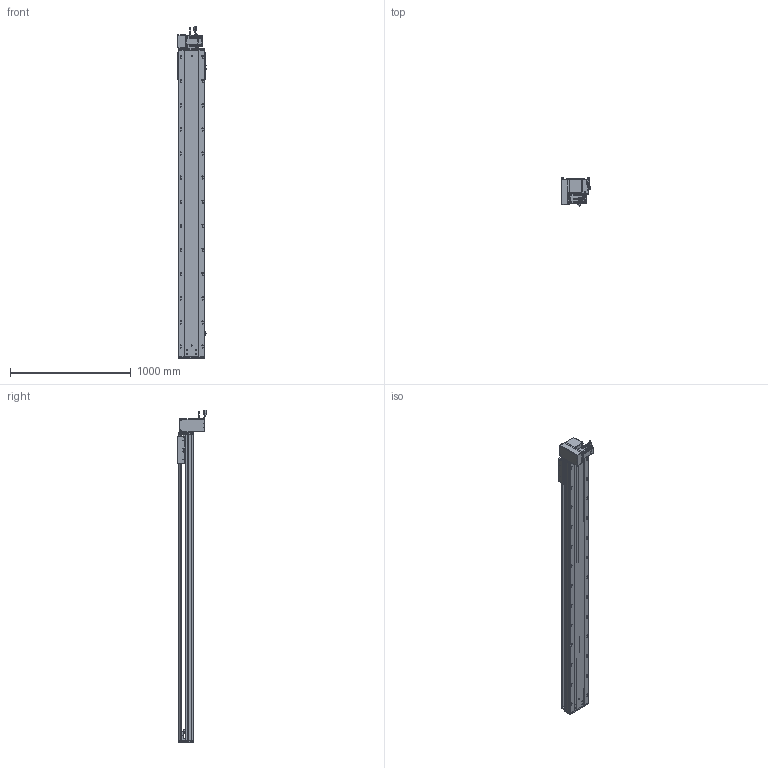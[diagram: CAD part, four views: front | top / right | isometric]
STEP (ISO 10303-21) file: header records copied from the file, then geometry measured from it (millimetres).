
FILE_DESCRIPTION (( 'STEP AP203' ), '1' );
FILE_NAME ('RY220-T-300-DL.SLDASM_2200.step', '2022-07-25T07:54:23', ( '' ), ( '' ), 'SwSTEP 2.0', 'SolidWorks 2016', '' );
FILE_SCHEMA (( 'CONFIG_CONTROL_DESIGN' ));
Length unit declared in the file: millimetre
Products named in the file (14): 滅袉蝶18-15; 怢湛750W_ECMA-CX0807ES; 110A-T-肮祭謫釱傷裔; RY220-T-300-DL.SLDASM_2200; RY220-同步轮副支撑座6304×2; RY220-T菁釱-300_2200; RY220圉猾敕々湍臏賑輸; 覜茼ん672; RY220-俋离672覜茼んえ; RY220-T-湍謫欶(鍼踢); RY220翋肮祭謫釱; RY220-T-300-奻裔啣_2200; RY220翋肮祭謫裔啣; RY220-T-蛌殏萇儂假蚾啣(750W)
Assembly tree (18 placements, depth 2):
  RY220-T-300-DL.SLDASM_2200
    RY220-T菁釱-300_2200
    RY220翋肮祭謫釱
    覜茼ん672  x3
    RY220圉猾敕々湍臏賑輸
    RY220-T-300-奻裔啣_2200
    RY220-俋离672覜茼んえ
    滅袉蝶18-15  x3
    RY220翋肮祭謫裔啣  x2
    110A-T-肮祭謫釱傷裔
    怢湛750W_ECMA-CX0807ES
    RY220-T-湍謫欶(鍼踢)
    RY220-T-蛌殏萇儂假蚾啣(750W)
    RY220-同步轮副支撑座6304×2
Bounding box: 239.7 x 240.74 x 2753.27 mm (x, y, z)
Volume: 20027861.2 mm3; surface area: 6111368.1 mm2
Topology: 19 solids, 19 shells, 2868 faces, 7923 edges, 4982 vertices
Faces by surface type: cylinder 1388, plane 1069, cone 329, bspline 56, sphere 16, torus 10
Entity records: 95475 total; most frequent: CARTESIAN_POINT 27009, ORIENTED_EDGE 14170, DIRECTION 13588, EDGE_CURVE 7085, AXIS2_PLACEMENT_3D 4870, VERTEX_POINT 4606, VECTOR 3848, LINE 3848
